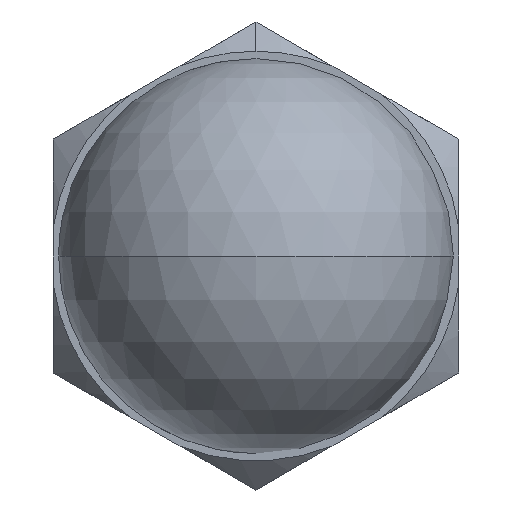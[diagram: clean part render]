
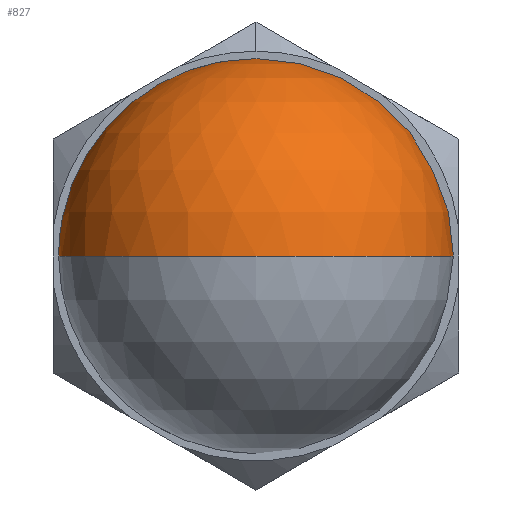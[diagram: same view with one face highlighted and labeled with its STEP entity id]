
A CAD part, front view. The second image highlights one B-rep face of the part: STEP entity #827.
In plain terms, the highlighted spherical face has radius 6.75 mm.
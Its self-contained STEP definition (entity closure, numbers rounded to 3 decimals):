
#90 = SPHERICAL_SURFACE ( 'NONE', #985, 6.75 ) ;
#105 = CIRCLE ( 'NONE', #522, 6.75 ) ;
#139 = DIRECTION ( 'NONE',  ( 0., 0., -1. ) ) ;
#215 = VERTEX_POINT ( 'NONE', #672 ) ;
#220 = CIRCLE ( 'NONE', #699, 4.5 ) ;
#300 = VERTEX_POINT ( 'NONE', #415 ) ;
#311 = FACE_OUTER_BOUND ( 'NONE', #776, .T. ) ;
#323 = DIRECTION ( 'NONE',  ( 0., 0., 1. ) ) ;
#372 = DIRECTION ( 'NONE',  ( 0., 0., -1. ) ) ;
#393 = DIRECTION ( 'NONE',  ( -1., 0., 0. ) ) ;
#401 = CARTESIAN_POINT ( 'NONE',  ( 0., 0., 0. ) ) ;
#415 = CARTESIAN_POINT ( 'NONE',  ( -4.5, 11.781, 0. ) ) ;
#455 = VERTEX_POINT ( 'NONE', #401 ) ;
#471 = EDGE_CURVE ( 'NONE', #300, #455, #105, .T. ) ;
#497 = CARTESIAN_POINT ( 'NONE',  ( 0., 11.781, 0. ) ) ;
#501 = DIRECTION ( 'NONE',  ( 0., -1., 0. ) ) ;
#522 = AXIS2_PLACEMENT_3D ( 'NONE', #832, #323, #920 ) ;
#534 = EDGE_CURVE ( 'NONE', #671, #455, #709, .T. ) ;
#580 = AXIS2_PLACEMENT_3D ( 'NONE', #878, #372, #961 ) ;
#597 = DIRECTION ( 'NONE',  ( 0., 0., -1. ) ) ;
#671 = VERTEX_POINT ( 'NONE', #840 ) ;
#672 = CARTESIAN_POINT ( 'NONE',  ( 0., 11.781, 4.5 ) ) ;
#674 = EDGE_CURVE ( 'NONE', #215, #300, #220, .T. ) ;
#699 = AXIS2_PLACEMENT_3D ( 'NONE', #497, #1084, #597 ) ;
#709 = CIRCLE ( 'NONE', #580, 6.75 ) ;
#757 = ORIENTED_EDGE ( 'NONE', *, *, #534, .F. ) ;
#758 = EDGE_CURVE ( 'NONE', #671, #215, #1043, .T. ) ;
#771 = ORIENTED_EDGE ( 'NONE', *, *, #758, .T. ) ;
#773 = ORIENTED_EDGE ( 'NONE', *, *, #674, .T. ) ;
#776 = EDGE_LOOP ( 'NONE', ( #757, #771, #773, #798 ) ) ;
#798 = ORIENTED_EDGE ( 'NONE', *, *, #471, .T. ) ;
#815 = CARTESIAN_POINT ( 'NONE',  ( 0., 6.75, 0. ) ) ;
#819 = AXIS2_PLACEMENT_3D ( 'NONE', #1008, #501, #1086 ) ;
#827 = ADVANCED_FACE ( 'NONE', ( #311 ), #90, .T. ) ;
#832 = CARTESIAN_POINT ( 'NONE',  ( 0., 6.75, 0. ) ) ;
#840 = CARTESIAN_POINT ( 'NONE',  ( 4.5, 11.781, 0. ) ) ;
#878 = CARTESIAN_POINT ( 'NONE',  ( 0., 6.75, 0. ) ) ;
#920 = DIRECTION ( 'NONE',  ( 1., 0., 0. ) ) ;
#961 = DIRECTION ( 'NONE',  ( -1., 0., 0. ) ) ;
#985 = AXIS2_PLACEMENT_3D ( 'NONE', #815, #139, #393 ) ;
#1008 = CARTESIAN_POINT ( 'NONE',  ( 0., 11.781, 0. ) ) ;
#1043 = CIRCLE ( 'NONE', #819, 4.5 ) ;
#1084 = DIRECTION ( 'NONE',  ( 0., -1., 0. ) ) ;
#1086 = DIRECTION ( 'NONE',  ( 0., 0., -1. ) ) ;
